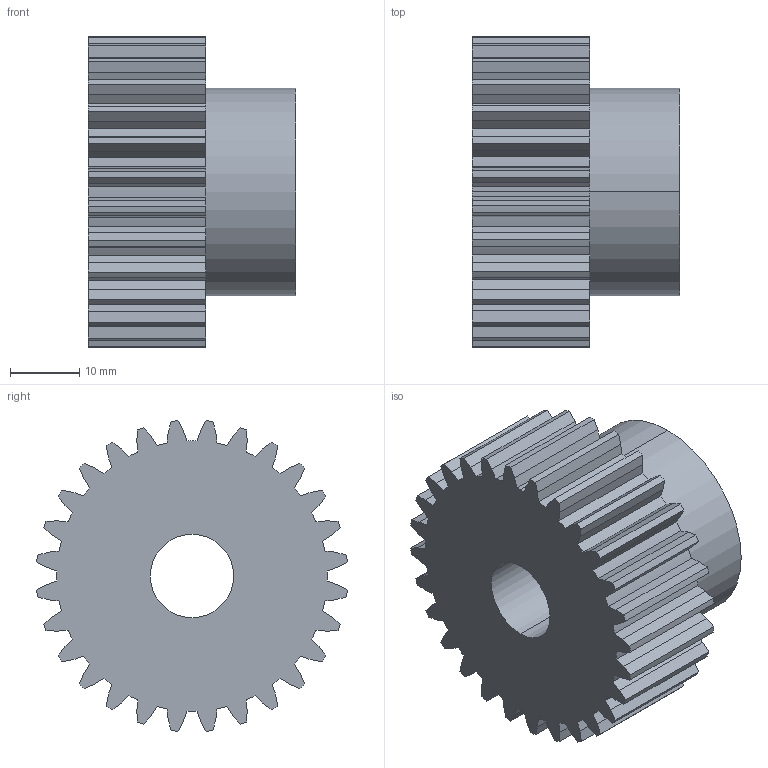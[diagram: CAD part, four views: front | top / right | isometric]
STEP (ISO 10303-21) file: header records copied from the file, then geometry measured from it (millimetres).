
FILE_DESCRIPTION (( 'STEP AP203' ), '1' );
FILE_NAME ('PM 27028.STEP', '2013-09-24T10:07:31', ( '' ), ( '' ), 'SwSTEP 2.0', 'SolidWorks 2010', '' );
FILE_SCHEMA (( 'CONFIG_CONTROL_DESIGN' ));
Length unit declared in the file: millimetre
Products named in the file (1): PM 27028
Bounding box: 30 x 44.82 x 44.82 mm (x, y, z)
Volume: 29056.9 mm3; surface area: 9085.8 mm2
Topology: 1 solids, 1 shells, 176 faces, 519 edges, 346 vertices
Faces by surface type: plane 115, cylinder 61
Entity records: 5948 total; most frequent: CARTESIAN_POINT 1048, ORIENTED_EDGE 1038, DIRECTION 993, EDGE_CURVE 519, LINE 395, VECTOR 395, VERTEX_POINT 346, AXIS2_PLACEMENT_3D 299
